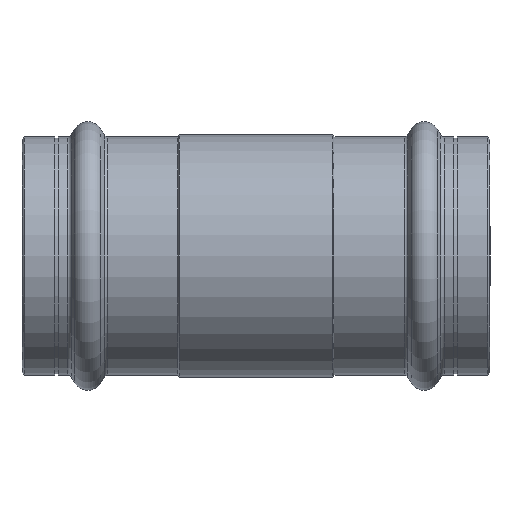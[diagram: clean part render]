
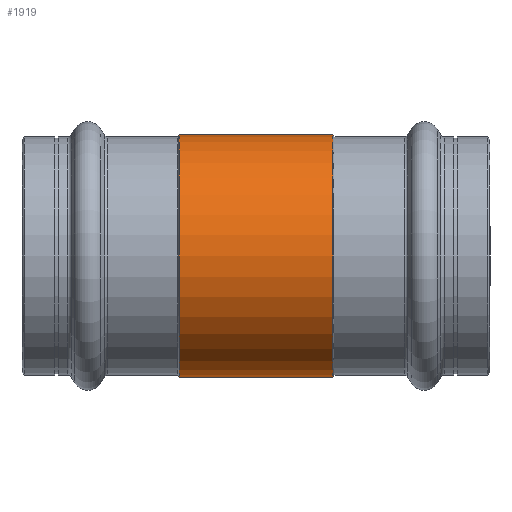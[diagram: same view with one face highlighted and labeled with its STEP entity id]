
A CAD part, front view. The second image highlights one B-rep face of the part: STEP entity #1919.
In plain terms, the highlighted cylindrical face has radius 29.5 mm (diameter 59 mm), a partial arc.
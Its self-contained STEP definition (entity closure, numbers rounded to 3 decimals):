
#382 = VECTOR ( 'NONE', #1416, 1000. ) ;
#550 = EDGE_LOOP ( 'NONE', ( #3489, #3345, #3301, #3255 ) ) ;
#887 = VERTEX_POINT ( 'NONE', #4596 ) ;
#1126 = AXIS2_PLACEMENT_3D ( 'NONE', #3579, #3594, #3603 ) ;
#1409 = CARTESIAN_POINT ( 'NONE',  ( -51.265, 0., -29.5 ) ) ;
#1416 = DIRECTION ( 'NONE',  ( -1., 0., 0. ) ) ;
#1435 = AXIS2_PLACEMENT_3D ( 'NONE', #1937, #1523, #4252 ) ;
#1436 = LINE ( 'NONE', #1447, #382 ) ;
#1447 = CARTESIAN_POINT ( 'NONE',  ( -51.265, 0., 29.5 ) ) ;
#1523 = DIRECTION ( 'NONE',  ( -1., 0., 0. ) ) ;
#1605 = VECTOR ( 'NONE', #2135, 1000. ) ;
#1842 = CIRCLE ( 'NONE', #1435, 29.5 ) ;
#1857 = CARTESIAN_POINT ( 'NONE',  ( 18.711, 0., -29.5 ) ) ;
#1875 = DIRECTION ( 'NONE',  ( -1., 0., 0. ) ) ;
#1919 = ADVANCED_FACE ( 'NONE', ( #4077 ), #3470, .T. ) ;
#1937 = CARTESIAN_POINT ( 'NONE',  ( -18.711, 0., 0. ) ) ;
#1988 = EDGE_CURVE ( 'NONE', #3289, #4319, #3972, .T. ) ;
#1990 = CARTESIAN_POINT ( 'NONE',  ( -51.265, 0., 0. ) ) ;
#2007 = DIRECTION ( 'NONE',  ( 0., 0., 1. ) ) ;
#2135 = DIRECTION ( 'NONE',  ( -1., 0., 0. ) ) ;
#2876 = CARTESIAN_POINT ( 'NONE',  ( 18.711, 0., 29.5 ) ) ;
#3255 = ORIENTED_EDGE ( 'NONE', *, *, #4152, .F. ) ;
#3289 = VERTEX_POINT ( 'NONE', #2876 ) ;
#3301 = ORIENTED_EDGE ( 'NONE', *, *, #3830, .T. ) ;
#3345 = ORIENTED_EDGE ( 'NONE', *, *, #1988, .F. ) ;
#3470 = CYLINDRICAL_SURFACE ( 'NONE', #4150, 29.5 ) ;
#3489 = ORIENTED_EDGE ( 'NONE', *, *, #4161, .F. ) ;
#3540 = LINE ( 'NONE', #1409, #1605 ) ;
#3579 = CARTESIAN_POINT ( 'NONE',  ( 18.711, 0., 0. ) ) ;
#3594 = DIRECTION ( 'NONE',  ( 1., 0., 0. ) ) ;
#3603 = DIRECTION ( 'NONE',  ( 0., 0., 1. ) ) ;
#3830 = EDGE_CURVE ( 'NONE', #3289, #4526, #1436, .T. ) ;
#3972 = CIRCLE ( 'NONE', #1126, 29.5 ) ;
#4077 = FACE_OUTER_BOUND ( 'NONE', #550, .T. ) ;
#4150 = AXIS2_PLACEMENT_3D ( 'NONE', #1990, #1875, #2007 ) ;
#4152 = EDGE_CURVE ( 'NONE', #887, #4526, #1842, .T. ) ;
#4161 = EDGE_CURVE ( 'NONE', #4319, #887, #3540, .T. ) ;
#4252 = DIRECTION ( 'NONE',  ( 0., 0., 1. ) ) ;
#4312 = CARTESIAN_POINT ( 'NONE',  ( -18.711, 0., 29.5 ) ) ;
#4319 = VERTEX_POINT ( 'NONE', #1857 ) ;
#4526 = VERTEX_POINT ( 'NONE', #4312 ) ;
#4596 = CARTESIAN_POINT ( 'NONE',  ( -18.711, 0., -29.5 ) ) ;
